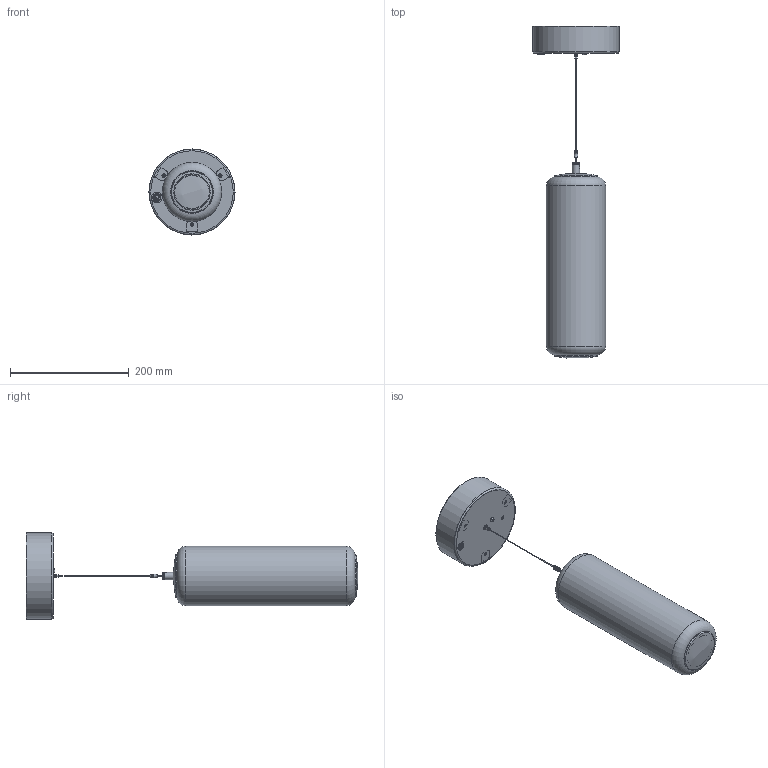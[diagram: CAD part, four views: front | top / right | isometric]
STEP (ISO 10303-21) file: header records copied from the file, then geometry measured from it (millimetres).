
FILE_DESCRIPTION(/* description */ ('30-60-90 ORIZZONTALI E VERTICALI'),/* implementation_level */ '2;1');
FILE_NAME(/* name */ '00343MP3LD00CEPB - STACKING S 30 V GLASS EMEA - VU RIG.stp',/* time_stamp */ '2026-02-02T16:27:12+01:00',/* author */ ('marco.prandina'),/* organization */ (''),/* preprocessor_version */ 'ST-DEVELOPER v20.1',/* originating_system */ 'Autodesk Inventor 2026',/* authorisation */ '');
FILE_SCHEMA (('AUTOMOTIVE_DESIGN { 1 0 10303 214 3 1 1 }'));
Products named in the file (53): 00343MPxxxxxxxxx; 00343C501; 00343C406-A; C010; K001; W029-BIA; W031; 00343C395; B006; 00343C397; 00343C404; 00343C398; 00343C407-A; 00343C369; 00343C377; Z0008; W024; K002; GUARN. O RING 2,9X1,78(SILIC.TRASP)SOSP.; 00343C410; VITE TSP M4X6 ZN; VITE TCB M4X8 UNI7687 ZB; VITE AUTOFIL. TCB TORX 4,2X38 ISO14585 ZB; 00343V006-B-300; 00499MP0021; 00499C002; 00499C005; A001; Z0013; B014-TRS; RONDELLA PA D10,5 d18 H1,6 DIN 433; B001-NRO; X0001; Z0010; 00499C004-B; 00499C004-01B; PERNO A PRESSIONE M3 H8 TIPO SPECIALINSERT CP08 0 030 12; K015; DADO M3 S2 M.00.06.19 UNI5588 DIN934; K016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
Assembly tree (105 placements, depth 4):
  00343MPxxxxxxxxx
    00343C501
      00343C406-A
      C010  x25
      K001
      W029-BIA
      W031
    00343C395
    B006
    00343C397
    00343C404
    00343C398
    00343C407-A
    00343C369
    00343C377
    Z0008
    W024
    K002
    GUARN. O RING 2,9X1,78(SILIC.TRASP)SOSP.  x6
    00343C410
    VITE TSP M4X6 ZN
    VITE TCB M3X8 UNI7687 ZB  x2
    VITE TCB M4X8 UNI7687 ZB
    VITE AUTOFIL. TCB TORX 4,2X38 ISO14585 ZB  x2
    00343V006-B-300
    00499MP0021
      00499C002
      00499C005
      A001
      K004  x8
      Z0013
      B014-TRS
      RONDELLA PA D10,5 d18 H1,6 DIN 433
      B001-NRO
      X0001
      Z0010
      00499C004-B
        00499C004-01B
        PERNO A PRESSIONE M3 H8 TIPO SPECIALINSERT CP08 0 030 12
      W026  x2
      K011  x2
      RONDELLA DENTELLATA ESTERNA M3 UNI8842A  x4
      K015
      DADO M3 S2 M.00.06.19 UNI5588 DIN934
      K016
      W027-BIA  x2
      K017
      VITE TBEI M4X8 ISO 7380 ZB
      VITE TCB M3X6 UNI7687 ZB  x4
      VITE TCB M3X8 UNI7687 ZB
      VITE TSPC M3X6 UNI7688 ZINCATA BIANCA  x3
      VITE TCB M3X16 UNI7687 ZB  x4
      DADO ZINCATO M8X1 H3
      RONDELLA DENTELLATA ESTERNA M8
Bounding box: 145 x 559.36 x 145 mm (x, y, z)
Volume: 796994.3 mm3; surface area: 621447.5 mm2
Topology: 102 solids, 103 shells, 4611 faces, 11994 edges, 7904 vertices
Faces by surface type: plane 3109, cylinder 1007, cone 377, torus 70, bspline 29, sphere 19
Full cylindrical faces by diameter (mm): 0.9 x1, 1.02 x2, 1.25 x1, 1.5 x2, 1.8 x2, 2.459 x20, 2.693 x3, 2.75 x11, 2.8 x3, 2.9 x2, 2.97 x1, 3 x23, 3.2 x4, 3.242 x3, 3.302 x1, 3.5 x20, 3.554 x1, 3.571 x1, 3.65 x1, 3.7 x1, 3.9 x16, 3.95 x1, 4 x5, 4.2 x3, 4.3 x3, 4.5 x5, 5 x5, 5.2 x1, 5.5 x3, 5.8 x1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
Entity records: 75438 total; most frequent: CARTESIAN_POINT 16012, DIRECTION 12059, ORIENTED_EDGE 11581, EDGE_CURVE 5831, AXIS2_PLACEMENT_3D 4285, VERTEX_POINT 3803, LINE 3489, VECTOR 3489
